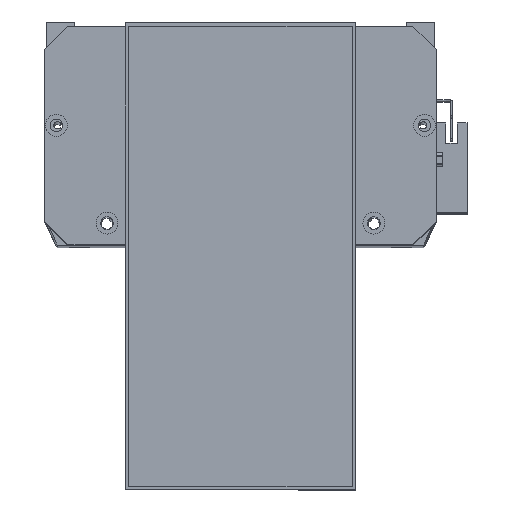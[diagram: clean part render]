
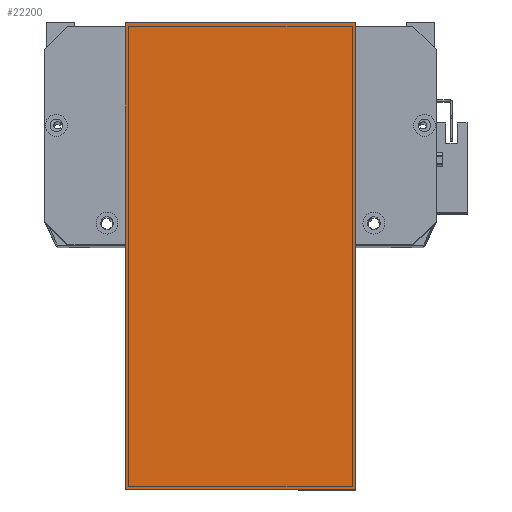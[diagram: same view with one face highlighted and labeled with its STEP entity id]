
A CAD part, top view. The second image highlights one B-rep face of the part: STEP entity #22200.
In plain terms, the highlighted planar face has unit normal (0, 0, 1) as drawn and (0, 0, -1) by its records, which use the part's own axes.
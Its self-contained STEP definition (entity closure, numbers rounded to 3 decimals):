
#211 = VERTEX_POINT ( 'NONE', #27369 ) ;
#1526 = DIRECTION ( 'NONE',  ( 0., 0., -1. ) ) ;
#1647 = DIRECTION ( 'NONE',  ( 0., 1., 0. ) ) ;
#4201 = ORIENTED_EDGE ( 'NONE', *, *, #9576, .T. ) ;
#5568 = DIRECTION ( 'NONE',  ( 1., 0., 0. ) ) ;
#6021 = ORIENTED_EDGE ( 'NONE', *, *, #19927, .F. ) ;
#6035 = LINE ( 'NONE', #26600, #9680 ) ;
#6111 = ORIENTED_EDGE ( 'NONE', *, *, #12431, .F. ) ;
#8699 = LINE ( 'NONE', #19321, #20052 ) ;
#9576 = EDGE_CURVE ( 'NONE', #24308, #19642, #8699, .T. ) ;
#9680 = VECTOR ( 'NONE', #22190, 1000. ) ;
#9956 = PLANE ( 'NONE',  #15837 ) ;
#12431 = EDGE_CURVE ( 'NONE', #27089, #19642, #12891, .T. ) ;
#12632 = LINE ( 'NONE', #16201, #23310 ) ;
#12819 = CARTESIAN_POINT ( 'NONE',  ( 203., 19.5, 0. ) ) ;
#12891 = LINE ( 'NONE', #14375, #24260 ) ;
#13550 = CARTESIAN_POINT ( 'NONE',  ( 0., 119.5, 0. ) ) ;
#14375 = CARTESIAN_POINT ( 'NONE',  ( 203., 0., 0. ) ) ;
#15054 = DIRECTION ( 'NONE',  ( 1., 0., 0. ) ) ;
#15485 = ORIENTED_EDGE ( 'NONE', *, *, #17662, .F. ) ;
#15837 = AXIS2_PLACEMENT_3D ( 'NONE', #18443, #1526, #16404 ) ;
#16201 = CARTESIAN_POINT ( 'NONE',  ( -12., 19.5, 0. ) ) ;
#16404 = DIRECTION ( 'NONE',  ( -1., 0., 0. ) ) ;
#17231 = CARTESIAN_POINT ( 'NONE',  ( 203., 119.5, 0. ) ) ;
#17662 = EDGE_CURVE ( 'NONE', #24308, #211, #6035, .T. ) ;
#18443 = CARTESIAN_POINT ( 'NONE',  ( 0., 0., 0. ) ) ;
#19321 = CARTESIAN_POINT ( 'NONE',  ( -12., 119.5, 0. ) ) ;
#19642 = VERTEX_POINT ( 'NONE', #17231 ) ;
#19927 = EDGE_CURVE ( 'NONE', #211, #27089, #12632, .T. ) ;
#20052 = VECTOR ( 'NONE', #15054, 1000. ) ;
#22190 = DIRECTION ( 'NONE',  ( 0., -1., 0. ) ) ;
#22200 = ADVANCED_FACE ( 'NONE', ( #25061 ), #9956, .T. ) ;
#23310 = VECTOR ( 'NONE', #5568, 1000. ) ;
#24260 = VECTOR ( 'NONE', #1647, 1000. ) ;
#24308 = VERTEX_POINT ( 'NONE', #13550 ) ;
#25061 = FACE_OUTER_BOUND ( 'NONE', #26860, .T. ) ;
#26600 = CARTESIAN_POINT ( 'NONE',  ( 0., 0., 0. ) ) ;
#26860 = EDGE_LOOP ( 'NONE', ( #6021, #15485, #4201, #6111 ) ) ;
#27089 = VERTEX_POINT ( 'NONE', #12819 ) ;
#27369 = CARTESIAN_POINT ( 'NONE',  ( 0., 19.5, 0. ) ) ;
